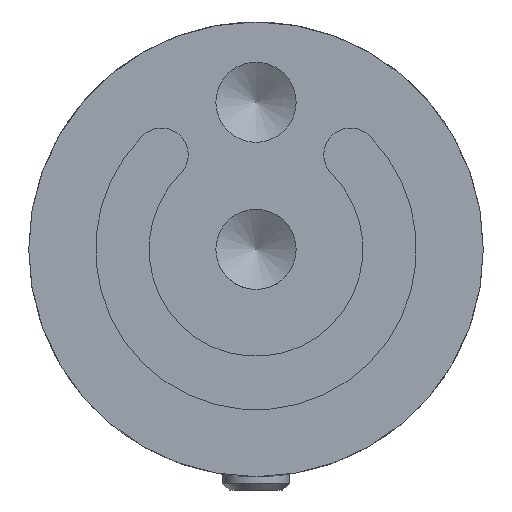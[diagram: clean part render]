
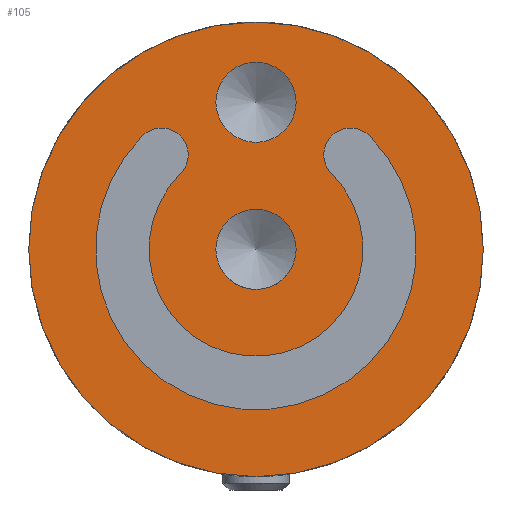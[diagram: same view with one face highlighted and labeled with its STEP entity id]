
A CAD part, front view. The second image highlights one B-rep face of the part: STEP entity #105.
In plain terms, the highlighted planar face has unit normal (0, -1, 0).
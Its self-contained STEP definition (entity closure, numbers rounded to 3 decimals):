
#105 = ADVANCED_FACE( '', ( #188, #189, #190, #191 ), #192, .F. );
#188 = FACE_BOUND( '', #289, .T. );
#189 = FACE_BOUND( '', #290, .T. );
#190 = FACE_OUTER_BOUND( '', #291, .T. );
#191 = FACE_BOUND( '', #292, .T. );
#192 = PLANE( '', #293 );
#289 = EDGE_LOOP( '', ( #545 ) );
#290 = EDGE_LOOP( '', ( #546, #547, #548, #549 ) );
#291 = EDGE_LOOP( '', ( #550 ) );
#292 = EDGE_LOOP( '', ( #551 ) );
#293 = AXIS2_PLACEMENT_3D( '', #552, #553, #554 );
#545 = ORIENTED_EDGE( '', *, *, #726, .F. );
#546 = ORIENTED_EDGE( '', *, *, #668, .T. );
#547 = ORIENTED_EDGE( '', *, *, #664, .T. );
#548 = ORIENTED_EDGE( '', *, *, #667, .F. );
#549 = ORIENTED_EDGE( '', *, *, #657, .T. );
#550 = ORIENTED_EDGE( '', *, *, #693, .T. );
#551 = ORIENTED_EDGE( '', *, *, #724, .T. );
#552 = CARTESIAN_POINT( '', ( 17., 0., 0. ) );
#553 = DIRECTION( '', ( 0., 1., 0. ) );
#554 = DIRECTION( '', ( -1., 0., 0. ) );
#657 = EDGE_CURVE( '', #766, #767, #768, .T. );
#664 = EDGE_CURVE( '', #775, #779, #781, .T. );
#667 = EDGE_CURVE( '', #766, #779, #784, .T. );
#668 = EDGE_CURVE( '', #767, #775, #785, .T. );
#693 = EDGE_CURVE( '', #828, #828, #829, .T. );
#724 = EDGE_CURVE( '', #883, #883, #884, .T. );
#726 = EDGE_CURVE( '', #885, #885, #886, .T. );
#766 = VERTEX_POINT( '', #953 );
#767 = VERTEX_POINT( '', #954 );
#768 = CIRCLE( '', #955, 2. );
#775 = VERTEX_POINT( '', #964 );
#779 = VERTEX_POINT( '', #969 );
#781 = CIRCLE( '', #972, 2. );
#784 = CIRCLE( '', #975, 8. );
#785 = CIRCLE( '', #976, 12. );
#828 = VERTEX_POINT( '', #1163 );
#829 = CIRCLE( '', #1164, 17. );
#883 = VERTEX_POINT( '', #1390 );
#884 = CIRCLE( '', #1391, 3. );
#885 = VERTEX_POINT( '', #1392 );
#886 = CIRCLE( '', #1393, 3. );
#953 = CARTESIAN_POINT( '', ( 5.657, 0., 5.657 ) );
#954 = CARTESIAN_POINT( '', ( 8.485, 0., 8.485 ) );
#955 = AXIS2_PLACEMENT_3D( '', #1450, #1451, #1452 );
#964 = CARTESIAN_POINT( '', ( -8.485, 0., 8.485 ) );
#969 = CARTESIAN_POINT( '', ( -5.657, 0., 5.657 ) );
#972 = AXIS2_PLACEMENT_3D( '', #1463, #1464, #1465 );
#975 = AXIS2_PLACEMENT_3D( '', #1472, #1473, #1474 );
#976 = AXIS2_PLACEMENT_3D( '', #1475, #1476, #1477 );
#1163 = CARTESIAN_POINT( '', ( 17., 0., 0. ) );
#1164 = AXIS2_PLACEMENT_3D( '', #1508, #1509, #1510 );
#1390 = CARTESIAN_POINT( '', ( 0., 0., 14. ) );
#1391 = AXIS2_PLACEMENT_3D( '', #1540, #1541, #1542 );
#1392 = CARTESIAN_POINT( '', ( 3., 0., 0. ) );
#1393 = AXIS2_PLACEMENT_3D( '', #1543, #1544, #1545 );
#1450 = CARTESIAN_POINT( '', ( 7.071, 0., 7.071 ) );
#1451 = DIRECTION( '', ( 0., 1., 0. ) );
#1452 = DIRECTION( '', ( 1., 0., 0. ) );
#1463 = CARTESIAN_POINT( '', ( -7.071, 0., 7.071 ) );
#1464 = DIRECTION( '', ( 0., 1., 0. ) );
#1465 = DIRECTION( '', ( 1., 0., 0. ) );
#1472 = CARTESIAN_POINT( '', ( 0., 0., 0. ) );
#1473 = DIRECTION( '', ( 0., 1., 0. ) );
#1474 = DIRECTION( '', ( 0., 0., 1. ) );
#1475 = CARTESIAN_POINT( '', ( 0., 0., 0. ) );
#1476 = DIRECTION( '', ( 0., 1., 0. ) );
#1477 = DIRECTION( '', ( 0., 0., 1. ) );
#1508 = CARTESIAN_POINT( '', ( 0., 0., 0. ) );
#1509 = DIRECTION( '', ( 0., -1., 0. ) );
#1510 = DIRECTION( '', ( 1., 0., 0. ) );
#1540 = CARTESIAN_POINT( '', ( 0., 0., 11. ) );
#1541 = DIRECTION( '', ( 0., 1., 0. ) );
#1542 = DIRECTION( '', ( 0., 0., 1. ) );
#1543 = CARTESIAN_POINT( '', ( 0., 0., 0. ) );
#1544 = DIRECTION( '', ( 0., -1., 0. ) );
#1545 = DIRECTION( '', ( 1., 0., 0. ) );
